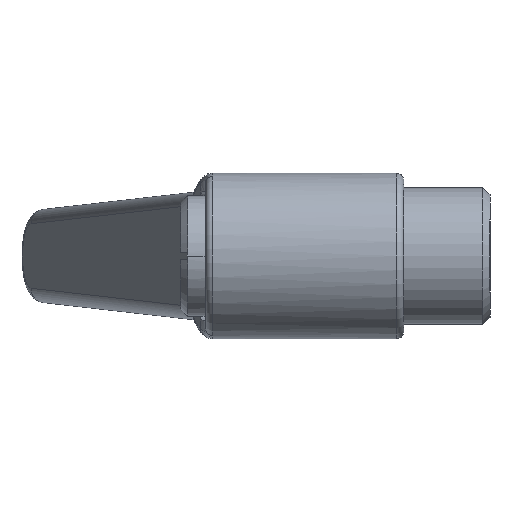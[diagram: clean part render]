
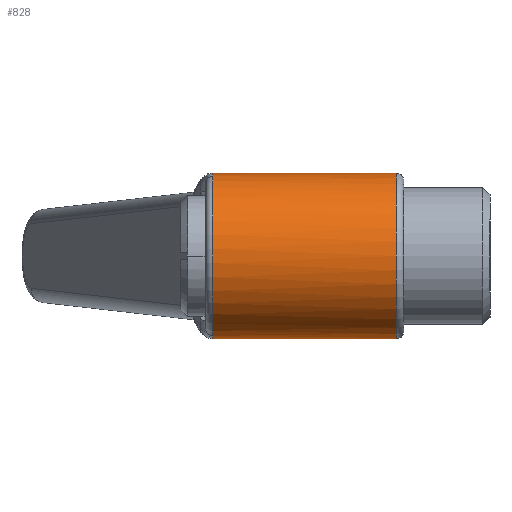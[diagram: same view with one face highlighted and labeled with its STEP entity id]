
A CAD part, left-side view. The second image highlights one B-rep face of the part: STEP entity #828.
In plain terms, the highlighted cylindrical face has radius 11.5 mm (diameter 23 mm), a partial arc.
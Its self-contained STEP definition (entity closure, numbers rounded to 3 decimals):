
#87 = CARTESIAN_POINT ( 'NONE',  ( -3.052, -1., -11.088 ) ) ;
#89 = AXIS2_PLACEMENT_3D ( 'NONE', #250, #2084, #1378 ) ;
#93 = EDGE_CURVE ( 'NONE', #1033, #2043, #1506, .T. ) ;
#107 = EDGE_CURVE ( 'NONE', #1365, #2072, #1484, .T. ) ;
#250 = CARTESIAN_POINT ( 'NONE',  ( 0., 27.5, 0. ) ) ;
#302 = ORIENTED_EDGE ( 'NONE', *, *, #107, .T. ) ;
#320 = CARTESIAN_POINT ( 'NONE',  ( 0., -0.814, -11.5 ) ) ;
#329 = CARTESIAN_POINT ( 'NONE',  ( 0., -26.5, 0. ) ) ;
#378 = AXIS2_PLACEMENT_3D ( 'NONE', #1598, #648, #1791 ) ;
#412 = CYLINDRICAL_SURFACE ( 'NONE', #89, 11.5 ) ;
#432 = FACE_OUTER_BOUND ( 'NONE', #1827, .T. ) ;
#491 = DIRECTION ( 'NONE',  ( 0., 0., 1. ) ) ;
#622 = DIRECTION ( 'NONE',  ( 0., -1., 0. ) ) ;
#648 = DIRECTION ( 'NONE',  ( 0., -1., 0. ) ) ;
#675 = ORIENTED_EDGE ( 'NONE', *, *, #1311, .T. ) ;
#792 = VERTEX_POINT ( 'NONE', #1880 ) ;
#823 = AXIS2_PLACEMENT_3D ( 'NONE', #329, #1453, #491 ) ;
#828 = ADVANCED_FACE ( 'NONE', ( #432 ), #412, .T. ) ;
#856 = VERTEX_POINT ( 'NONE', #87 ) ;
#967 = CARTESIAN_POINT ( 'NONE',  ( -2.047, -0.985, 11.328 ) ) ;
#1033 = VERTEX_POINT ( 'NONE', #1913 ) ;
#1092 = CARTESIAN_POINT ( 'NONE',  ( 0., -26.5, 11.5 ) ) ;
#1131 = CARTESIAN_POINT ( 'NONE',  ( -3.052, -1., 11.088 ) ) ;
#1296 = CARTESIAN_POINT ( 'NONE',  ( -1.028, -0.94, -11.5 ) ) ;
#1299 = EDGE_CURVE ( 'NONE', #1033, #792, #1732, .T. ) ;
#1311 = EDGE_CURVE ( 'NONE', #792, #856, #2129, .T. ) ;
#1336 = EDGE_CURVE ( 'NONE', #856, #1365, #2201, .T. ) ;
#1365 = VERTEX_POINT ( 'NONE', #2205 ) ;
#1374 = EDGE_CURVE ( 'NONE', #2072, #2043, #2100, .T. ) ;
#1378 = DIRECTION ( 'NONE',  ( 0., 0., -1. ) ) ;
#1428 = CARTESIAN_POINT ( 'NONE',  ( 0., -0.814, 11.5 ) ) ;
#1434 = CARTESIAN_POINT ( 'NONE',  ( 0., 27.5, -11.5 ) ) ;
#1442 = CARTESIAN_POINT ( 'NONE',  ( -3.052, -1., -11.088 ) ) ;
#1453 = DIRECTION ( 'NONE',  ( 0., 1., 0. ) ) ;
#1484 = LINE ( 'NONE', #1434, #1583 ) ;
#1497 = VECTOR ( 'NONE', #622, 1000. ) ;
#1506 = LINE ( 'NONE', #1953, #1497 ) ;
#1512 = ORIENTED_EDGE ( 'NONE', *, *, #93, .F. ) ;
#1545 = ORIENTED_EDGE ( 'NONE', *, *, #1336, .T. ) ;
#1583 = VECTOR ( 'NONE', #1591, 1000. ) ;
#1591 = DIRECTION ( 'NONE',  ( 0., -1., 0. ) ) ;
#1598 = CARTESIAN_POINT ( 'NONE',  ( 0., -1., 0. ) ) ;
#1732 = B_SPLINE_CURVE_WITH_KNOTS ( 'NONE', 3,
 ( #1428, #1780, #1987, #967, #2183, #1131 ),
 .UNSPECIFIED., .F., .F.,
 ( 4, 2, 4 ),
 ( 0.003, 0.005, 0.006 ),
 .UNSPECIFIED. ) ;
#1780 = CARTESIAN_POINT ( 'NONE',  ( -0.514, -0.877, 11.5 ) ) ;
#1784 = CARTESIAN_POINT ( 'NONE',  ( 0., -26.5, -11.5 ) ) ;
#1791 = DIRECTION ( 'NONE',  ( 0., 0., -1. ) ) ;
#1827 = EDGE_LOOP ( 'NONE', ( #1512, #1862, #675, #1545, #302, #1884 ) ) ;
#1862 = ORIENTED_EDGE ( 'NONE', *, *, #1299, .T. ) ;
#1880 = CARTESIAN_POINT ( 'NONE',  ( -3.052, -1., 11.088 ) ) ;
#1884 = ORIENTED_EDGE ( 'NONE', *, *, #1374, .T. ) ;
#1913 = CARTESIAN_POINT ( 'NONE',  ( 0., -0.814, 11.5 ) ) ;
#1953 = CARTESIAN_POINT ( 'NONE',  ( 0., 27.5, 11.5 ) ) ;
#1987 = CARTESIAN_POINT ( 'NONE',  ( -1.029, -0.924, 11.465 ) ) ;
#2043 = VERTEX_POINT ( 'NONE', #1092 ) ;
#2072 = VERTEX_POINT ( 'NONE', #1784 ) ;
#2084 = DIRECTION ( 'NONE',  ( 0., -1., 0. ) ) ;
#2100 = CIRCLE ( 'NONE', #823, 11.5 ) ;
#2129 = CIRCLE ( 'NONE', #378, 11.5 ) ;
#2183 = CARTESIAN_POINT ( 'NONE',  ( -2.551, -1., 11.225 ) ) ;
#2193 = CARTESIAN_POINT ( 'NONE',  ( -2.046, -1., -11.364 ) ) ;
#2201 = B_SPLINE_CURVE_WITH_KNOTS ( 'NONE', 3,
 ( #1442, #2193, #1296, #320 ),
 .UNSPECIFIED., .F., .F.,
 ( 4, 4 ),
 ( 0., 0.003 ),
 .UNSPECIFIED. ) ;
#2205 = CARTESIAN_POINT ( 'NONE',  ( 0., -0.814, -11.5 ) ) ;
